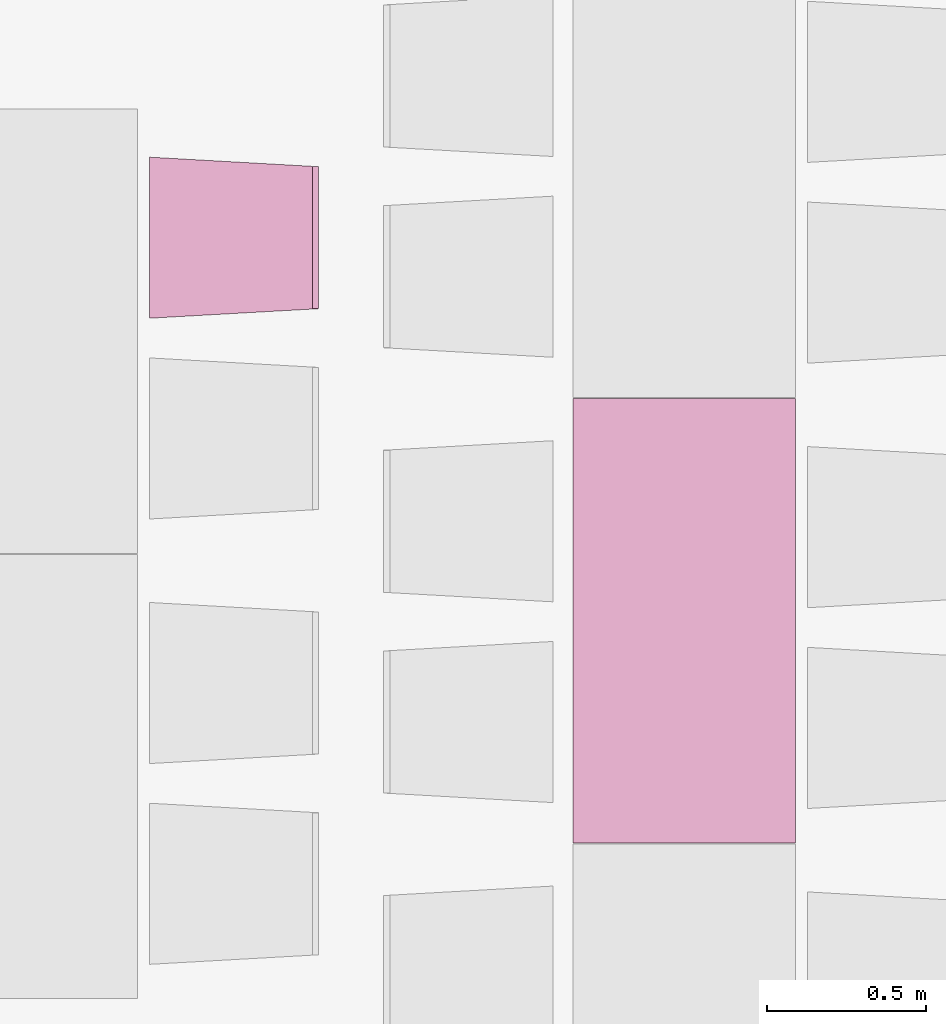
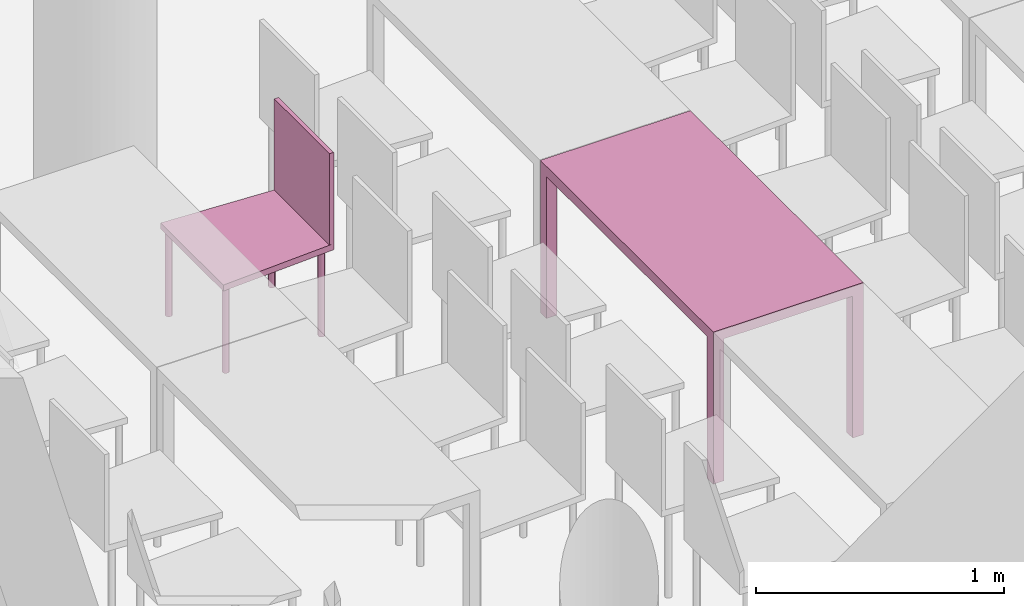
"""IFC4 building model written with IfcOpenShell, lengths in metres."""

from ifc_helpers import new_model, entity, si_unit, converted_unit, derived_unit, frame, origin, place, context, subcontext, project, spatial, faceted_brep, element, save


model = new_model("IFC4")

# Units and contexts
model_context = context("Model", 3, precision=1e-05, world=origin())
body_context = subcontext(model_context, "Body", "Model", "MODEL_VIEW")
ifc_project = project(units=[si_unit("LENGTHUNIT", "METRE"), si_unit("AREAUNIT", "SQUARE_METRE"), si_unit("VOLUMEUNIT", "CUBIC_METRE"), si_unit("MASSUNIT", "GRAM", prefix="KILO"), converted_unit("PLANEANGLEUNIT", "DEGREE", entity("IfcPlaneAngleMeasure", 0.0174532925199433), si_unit("PLANEANGLEUNIT", "RADIAN"), dimensions=[0, 0, 0, 0, 0, 0, 0]), derived_unit("THERMALTRANSMITTANCEUNIT", [(si_unit("POWERUNIT", "WATT"), 1), (si_unit("THERMODYNAMICTEMPERATUREUNIT", "KELVIN"), -1), (si_unit("LENGTHUNIT", "METRE"), -2)]), derived_unit("VOLUMETRICFLOWRATEUNIT", [(si_unit("LENGTHUNIT", "METRE"), 3), (converted_unit("TIMEUNIT", "hour", entity("IfcTimeMeasure", 3600.0), si_unit("TIMEUNIT", "SECOND"), dimensions=[0, 0, 1, 0, 0, 0, 0]), -1), (si_unit("LENGTHUNIT", "METRE"), -1)])], contexts=[model_context])

# Building, storeys
building_placement = place(None, origin())
building = spatial("IfcBuilding", under=ifc_project, at=building_placement, Name="HABITATGE PLURIFAMILIAR", CompositionType="ELEMENT")
storey_1_placement = place(building_placement, frame((0.0, 0.0, 3.35)))
storey_1 = spatial("IfcBuildingStorey", under=building, at=storey_1_placement, Name="PLANTA  ALTELL", CompositionType="ELEMENT", Elevation=3.35)
storey_2_placement = place(storey_1_placement, origin())
storey_2 = spatial("IfcBuildingStorey", under=storey_1, at=storey_2_placement, Name="NOU", CompositionType="PARTIAL")

# Furniture
furniture_1_placement = place(storey_2_placement, frame((402.051918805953, 14.6526455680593, 0.05)))
element("IfcFurniture", 1, at=furniture_1_placement, inside=storey_2, Name="Taula 140X80_PA", context=body_context, shape_type="Brep", body=[
    faceted_brep([(0.7, 0.0500000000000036, 0.0), (0.65, 0.0500000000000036, 0.0), (0.65, 0.0, 0.0), (0.7, 0.0, 0.0), (0.65, 0.0500000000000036, 0.7), (0.7, 0.0500000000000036, 0.7), (0.7, 0.0, 0.7), (0.65, 0.0, 0.7)], [[[0, 1, 2, 3]], [[4, 5, 6, 7]], [[1, 0, 5, 4]], [[2, 1, 4, 7]], [[3, 2, 7, 6]], [[0, 3, 6, 5]]], orient=[[False], [False], [False], [False], [False], [False]]),
    faceted_brep([(0.7, 1.39694592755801, 0.0), (0.65, 1.39694592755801, 0.0), (0.65, 1.34694592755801, 0.0), (0.7, 1.34694592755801, 0.0), (0.65, 1.39694592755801, 0.7), (0.7, 1.39694592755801, 0.7), (0.7, 1.34694592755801, 0.7), (0.65, 1.34694592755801, 0.7)], [[[0, 1, 2, 3]], [[4, 5, 6, 7]], [[1, 0, 5, 4]], [[2, 1, 4, 7]], [[3, 2, 7, 6]], [[0, 3, 6, 5]]], orient=[[False], [False], [False], [False], [False], [False]]),
    faceted_brep([(0.7, 1.396945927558, 0.7), (0.0, 1.396945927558, 0.7), (0.0, 0.0, 0.7), (0.7, 0.0, 0.7), (0.0, 1.396945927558, 0.75), (0.7, 1.396945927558, 0.75), (0.7, 0.0, 0.75), (0.0, 0.0, 0.75)], [[[0, 1, 2, 3]], [[4, 5, 6, 7]], [[1, 0, 5, 4]], [[2, 1, 4, 7]], [[3, 2, 7, 6]], [[0, 3, 6, 5]]], orient=[[False], [False], [False], [False], [False], [False]]),
    faceted_brep([(0.05, 0.05, 0.0), (0.0, 0.05, 0.0), (0.0, 0.0, 0.0), (0.05, 0.0, 0.0), (0.0, 0.05, 0.7), (0.05, 0.05, 0.7), (0.05, 0.0, 0.7), (0.0, 0.0, 0.7)], [[[0, 1, 2, 3]], [[4, 5, 6, 7]], [[1, 0, 5, 4]], [[2, 1, 4, 7]], [[3, 2, 7, 6]], [[0, 3, 6, 5]]], orient=[[False], [False], [False], [False], [False], [False]]),
    faceted_brep([(0.05, 1.396945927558, 0.0), (0.0, 1.396945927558, 0.0), (0.0, 1.346945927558, 0.0), (0.05, 1.346945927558, 0.0), (0.0, 1.396945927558, 0.7), (0.05, 1.396945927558, 0.7), (0.05, 1.346945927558, 0.7), (0.0, 1.346945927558, 0.7)], [[[0, 1, 2, 3]], [[4, 5, 6, 7]], [[1, 0, 5, 4]], [[2, 1, 4, 7]], [[3, 2, 7, 6]], [[0, 3, 6, 5]]], orient=[[False], [False], [False], [False], [False], [False]]),
])
furniture_2_placement = place(storey_2_placement, frame((400.719669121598, 16.3018682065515, 0.0499839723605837)))
element("IfcFurniture", 2, at=furniture_2_placement, inside=storey_2, Name="Cadira confident_PA", context=body_context, shape_type="Brep", body=[
    faceted_brep([(0.0250324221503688, 0.0391636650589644, 0.0), (0.0224394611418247, 0.0389254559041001, 0.0), (0.0199272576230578, 0.038240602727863, 0.0), (0.0175721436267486, 0.0371299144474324, 0.0), (0.0154456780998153, 0.0356271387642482, 0.0), (0.0136124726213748, 0.0337779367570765, 0.0), (0.0121282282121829, 0.0316384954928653, 0.0), (0.0110380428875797, 0.0292738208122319, 0.0), (0.010375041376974, 0.0267557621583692, 0.0), (0.0101593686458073, 0.0241608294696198, 0.0), (0.010397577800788, 0.0215678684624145, 0.0), (0.0110824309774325, 0.0190556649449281, 0.0), (0.0121931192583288, 0.0167005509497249, 0.0), (0.0136958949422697, 0.0145740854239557, 0.0), (0.0155450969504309, 0.0127408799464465, 0.0), (0.0176845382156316, 0.0112566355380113, 0.0), (0.0200492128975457, 0.010166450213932, 0.0), (0.0225672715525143, 0.00950344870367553, 0.0), (0.0251622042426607, 0.00928777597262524, 0.0), (0.0277551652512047, 0.00952598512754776, 0.0), (0.0302673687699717, 0.0102108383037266, 0.0), (0.0326224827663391, 0.0113215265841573, 0.0), (0.0347489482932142, 0.0128243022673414, 0.0), (0.0365821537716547, 0.0146735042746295, 0.0), (0.0380663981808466, 0.0168129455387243, 0.0), (0.0391565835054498, 0.019177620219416, 0.0), (0.0398195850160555, 0.0216956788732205, 0.0), (0.0400352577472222, 0.0242906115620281, 0.0), (0.0397970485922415, 0.0268835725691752, 0.0), (0.0391121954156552, 0.0293957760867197, 0.0), (0.0380015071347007, 0.0317508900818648, 0.0), (0.0364987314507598, 0.0338773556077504, 0.0), (0.0346495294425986, 0.0357105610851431, 0.0), (0.0325100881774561, 0.0371948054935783, 0.0), (0.030145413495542, 0.0382849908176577, 0.0), (0.0276273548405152, 0.0389479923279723, 0.0), (0.0250324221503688, 0.0391636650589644, 0.448281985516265), (0.0276273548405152, 0.0389479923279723, 0.448281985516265), (0.030145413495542, 0.0382849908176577, 0.448281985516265), (0.0325100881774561, 0.0371948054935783, 0.448281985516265), (0.0346495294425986, 0.0357105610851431, 0.448281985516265), (0.0364987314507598, 0.0338773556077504, 0.448281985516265), (0.0380015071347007, 0.0317508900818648, 0.448281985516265), (0.0391121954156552, 0.0293957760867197, 0.448281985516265), (0.0397970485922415, 0.0268835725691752, 0.448281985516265), (0.0400352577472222, 0.0242906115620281, 0.448281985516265), (0.0398195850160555, 0.0216956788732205, 0.448281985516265), (0.0391565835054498, 0.019177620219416, 0.448281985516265), (0.0380663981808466, 0.0168129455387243, 0.448281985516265), (0.0365821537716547, 0.0146735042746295, 0.448281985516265), (0.0347489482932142, 0.0128243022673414, 0.448281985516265), (0.0326224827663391, 0.0113215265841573, 0.448281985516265), (0.0302673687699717, 0.0102108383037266, 0.448281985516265), (0.0277551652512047, 0.00952598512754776, 0.448281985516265), (0.0251622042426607, 0.00928777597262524, 0.448281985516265), (0.0225672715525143, 0.00950344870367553, 0.448281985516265), (0.0200492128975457, 0.010166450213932, 0.448281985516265), (0.0176845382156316, 0.0112566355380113, 0.448281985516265), (0.0155450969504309, 0.0127408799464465, 0.448281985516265), (0.0136958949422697, 0.0145740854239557, 0.448281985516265), (0.0121931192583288, 0.0167005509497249, 0.448281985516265), (0.0110824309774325, 0.0190556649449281, 0.448281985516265), (0.010397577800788, 0.0215678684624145, 0.448281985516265), (0.0101593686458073, 0.0241608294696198, 0.448281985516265), (0.010375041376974, 0.0267557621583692, 0.448281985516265), (0.0110380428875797, 0.0292738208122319, 0.448281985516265), (0.0121282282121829, 0.0316384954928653, 0.448281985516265), (0.0136124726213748, 0.0337779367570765, 0.448281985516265), (0.0154456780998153, 0.0356271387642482, 0.448281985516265), (0.0175721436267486, 0.0371299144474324, 0.448281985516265), (0.0199272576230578, 0.038240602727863, 0.448281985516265), (0.0224394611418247, 0.0389254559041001, 0.448281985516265)], [[[0, 1, 2, 3, 4, 5, 6, 7, 8, 9, 10, 11, 12, 13, 14, 15, 16, 17, 18, 19, 20, 21, 22, 23, 24, 25, 26, 27, 28, 29, 30, 31, 32, 33, 34, 35]], [[36, 37, 38, 39, 40, 41, 42, 43, 44, 45, 46, 47, 48, 49, 50, 51, 52, 53, 54, 55, 56, 57, 58, 59, 60, 61, 62, 63, 64, 65, 66, 67, 68, 69, 70, 71]], [[35, 37, 36, 0]], [[34, 38, 37, 35]], [[33, 39, 38, 34]], [[32, 40, 39, 33]], [[31, 41, 40, 32]], [[30, 42, 41, 31]], [[29, 43, 42, 30]], [[28, 44, 43, 29]], [[27, 45, 44, 28]], [[26, 46, 45, 27]], [[25, 47, 46, 26]], [[24, 48, 47, 25]], [[23, 49, 48, 24]], [[22, 50, 49, 23]], [[21, 51, 50, 22]], [[20, 52, 51, 21]], [[19, 53, 52, 20]], [[18, 54, 53, 19]], [[17, 55, 54, 18]], [[16, 56, 55, 17]], [[15, 57, 56, 16]], [[14, 58, 57, 15]], [[13, 59, 58, 14]], [[12, 60, 59, 13]], [[11, 61, 60, 12]], [[10, 62, 61, 11]], [[9, 63, 62, 10]], [[8, 64, 63, 9]], [[7, 65, 64, 8]], [[6, 66, 65, 7]], [[5, 67, 66, 6]], [[4, 68, 67, 5]], [[3, 69, 68, 4]], [[2, 70, 69, 3]], [[1, 71, 70, 2]], [[0, 36, 71, 1]]], orient=[[False], [False], [False], [False], [False], [False], [False], [False], [False], [False], [False], [False], [False], [False], [False], [False], [False], [False], [False], [False], [False], [False], [False], [False], [False], [False], [False], [False], [False], [False], [False], [False], [False], [False], [False], [False], [False], [False]]),
    faceted_brep([(0.487439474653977, 0.0668016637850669, 0.0), (0.484846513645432, 0.0665634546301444, 0.0), (0.482334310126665, 0.0658786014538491, 0.0), (0.479979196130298, 0.0647679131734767, 0.0), (0.477852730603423, 0.0632651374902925, 0.0), (0.476019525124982, 0.0614159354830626, 0.0), (0.474535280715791, 0.0592764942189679, 0.0), (0.473445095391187, 0.056911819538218, 0.0), (0.472782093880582, 0.0543937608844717, 0.0), (0.472566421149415, 0.0517988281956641, 0.0), (0.472804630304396, 0.0492058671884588, 0.0), (0.473489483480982, 0.0466936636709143, 0.0), (0.474600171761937, 0.0443385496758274, 0.0), (0.476102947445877, 0.0422120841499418, 0.0), (0.477952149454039, 0.0403788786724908, 0.0), (0.480091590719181, 0.0388946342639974, 0.0), (0.482456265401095, 0.0378044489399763, 0.0), (0.484974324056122, 0.0371414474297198, 0.0), (0.487569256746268, 0.0369257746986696, 0.0), (0.490162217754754, 0.0371639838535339, 0.0), (0.492674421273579, 0.0378488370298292, 0.0), (0.495029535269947, 0.0389595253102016, 0.0), (0.497156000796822, 0.0404623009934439, 0.0), (0.498989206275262, 0.0423115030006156, 0.0), (0.500473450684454, 0.0444509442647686, 0.0), (0.501563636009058, 0.0468156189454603, 0.0), (0.502226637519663, 0.0493336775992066, 0.0), (0.50244231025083, 0.0519286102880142, 0.0), (0.502204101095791, 0.0545215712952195, 0.0), (0.501519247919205, 0.057033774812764, 0.0), (0.500408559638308, 0.0593888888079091, 0.0), (0.498905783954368, 0.0615153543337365, 0.0), (0.497056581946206, 0.0633485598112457, 0.0), (0.494917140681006, 0.0648328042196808, 0.0), (0.492552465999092, 0.065922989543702, 0.0), (0.490034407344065, 0.0665859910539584, 0.0), (0.487439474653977, 0.0668016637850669, 0.448281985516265), (0.490034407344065, 0.0665859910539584, 0.448281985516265), (0.492552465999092, 0.065922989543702, 0.448281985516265), (0.494917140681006, 0.0648328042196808, 0.448281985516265), (0.497056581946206, 0.0633485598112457, 0.448281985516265), (0.498905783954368, 0.0615153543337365, 0.448281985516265), (0.500408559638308, 0.0593888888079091, 0.448281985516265), (0.501519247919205, 0.057033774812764, 0.448281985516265), (0.502204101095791, 0.0545215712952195, 0.448281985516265), (0.50244231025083, 0.0519286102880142, 0.448281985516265), (0.502226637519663, 0.0493336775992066, 0.448281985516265), (0.501563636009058, 0.0468156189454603, 0.448281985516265), (0.500473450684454, 0.0444509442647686, 0.448281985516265), (0.498989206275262, 0.0423115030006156, 0.448281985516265), (0.497156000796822, 0.0404623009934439, 0.448281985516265), (0.495029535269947, 0.0389595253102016, 0.448281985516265), (0.492674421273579, 0.0378488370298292, 0.448281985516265), (0.490162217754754, 0.0371639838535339, 0.448281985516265), (0.487569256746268, 0.0369257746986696, 0.448281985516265), (0.484974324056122, 0.0371414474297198, 0.448281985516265), (0.482456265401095, 0.0378044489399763, 0.448281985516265), (0.480091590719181, 0.0388946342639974, 0.448281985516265), (0.477952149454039, 0.0403788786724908, 0.448281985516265), (0.476102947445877, 0.0422120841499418, 0.448281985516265), (0.474600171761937, 0.0443385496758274, 0.448281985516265), (0.473489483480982, 0.0466936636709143, 0.448281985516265), (0.472804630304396, 0.0492058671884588, 0.448281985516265), (0.472566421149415, 0.0517988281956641, 0.448281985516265), (0.472782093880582, 0.0543937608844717, 0.448281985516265), (0.473445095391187, 0.056911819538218, 0.448281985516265), (0.474535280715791, 0.0592764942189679, 0.448281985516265), (0.476019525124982, 0.0614159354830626, 0.448281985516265), (0.477852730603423, 0.0632651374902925, 0.448281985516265), (0.479979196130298, 0.0647679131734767, 0.448281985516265), (0.482334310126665, 0.0658786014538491, 0.448281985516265), (0.484846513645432, 0.0665634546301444, 0.448281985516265)], [[[0, 1, 2, 3, 4, 5, 6, 7, 8, 9, 10, 11, 12, 13, 14, 15, 16, 17, 18, 19, 20, 21, 22, 23, 24, 25, 26, 27, 28, 29, 30, 31, 32, 33, 34, 35]], [[36, 37, 38, 39, 40, 41, 42, 43, 44, 45, 46, 47, 48, 49, 50, 51, 52, 53, 54, 55, 56, 57, 58, 59, 60, 61, 62, 63, 64, 65, 66, 67, 68, 69, 70, 71]], [[35, 37, 36, 0]], [[34, 38, 37, 35]], [[33, 39, 38, 34]], [[32, 40, 39, 33]], [[31, 41, 40, 32]], [[30, 42, 41, 31]], [[29, 43, 42, 30]], [[28, 44, 43, 29]], [[27, 45, 44, 28]], [[26, 46, 45, 27]], [[25, 47, 46, 26]], [[24, 48, 47, 25]], [[23, 49, 48, 24]], [[22, 50, 49, 23]], [[21, 51, 50, 22]], [[20, 52, 51, 21]], [[19, 53, 52, 20]], [[18, 54, 53, 19]], [[17, 55, 54, 18]], [[16, 56, 55, 17]], [[15, 57, 56, 16]], [[14, 58, 57, 15]], [[13, 59, 58, 14]], [[12, 60, 59, 13]], [[11, 61, 60, 12]], [[10, 62, 61, 11]], [[9, 63, 62, 10]], [[8, 64, 63, 9]], [[7, 65, 64, 8]], [[6, 66, 65, 7]], [[5, 67, 66, 6]], [[4, 68, 67, 5]], [[3, 69, 68, 4]], [[2, 70, 69, 3]], [[1, 71, 70, 2]], [[0, 36, 71, 1]]], orient=[[False], [False], [False], [False], [False], [False], [False], [False], [False], [False], [False], [False], [False], [False], [False], [False], [False], [False], [False], [False], [False], [False], [False], [False], [False], [False], [False], [False], [False], [False], [False], [False], [False], [False], [False], [False], [False], [False]]),
    faceted_brep([(0.0250324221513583, 0.499163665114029, 0.0), (0.0224394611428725, 0.498925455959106, 0.0), (0.0199272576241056, 0.498240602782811, 0.0), (0.0175721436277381, 0.497129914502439, 0.0), (0.0154456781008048, 0.495627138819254, 0.0), (0.0136124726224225, 0.493777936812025, 0.0), (0.0121282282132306, 0.491638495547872, 0.0), (0.0110380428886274, 0.489273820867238, 0.0), (0.0103750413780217, 0.486755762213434, 0.0), (0.0101593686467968, 0.484160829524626, 0.0), (0.0103975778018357, 0.481567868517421, 0.0), (0.0110824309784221, 0.479055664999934, 0.0), (0.0121931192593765, 0.476700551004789, 0.0), (0.0136958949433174, 0.474574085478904, 0.0), (0.0155450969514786, 0.472740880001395, 0.0), (0.0176845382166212, 0.471256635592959, 0.0), (0.0200492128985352, 0.470166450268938, 0.0), (0.022567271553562, 0.469503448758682, 0.0), (0.0251622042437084, 0.469287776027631, 0.0), (0.0277551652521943, 0.469525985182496, 0.0), (0.0302673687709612, 0.470210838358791, 0.0), (0.0326224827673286, 0.471321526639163, 0.0), (0.0347489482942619, 0.472824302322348, 0.0), (0.0365821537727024, 0.474673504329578, 0.0), (0.0380663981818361, 0.476812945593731, 0.0), (0.0391565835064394, 0.479177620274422, 0.0), (0.039819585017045, 0.481695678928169, 0.0), (0.0400352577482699, 0.484290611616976, 0.0), (0.039797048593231, 0.486883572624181, 0.0), (0.0391121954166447, 0.489395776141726, 0.0), (0.0380015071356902, 0.491750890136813, 0.0), (0.0364987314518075, 0.493877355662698, 0.0), (0.0346495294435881, 0.495710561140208, 0.0), (0.0325100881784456, 0.497194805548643, 0.0), (0.0301454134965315, 0.498284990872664, 0.0), (0.0276273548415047, 0.49894799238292, 0.0), (0.0250324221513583, 0.499163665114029, 0.448281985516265), (0.0276273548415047, 0.49894799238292, 0.448281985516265), (0.0301454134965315, 0.498284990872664, 0.448281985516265), (0.0325100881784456, 0.497194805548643, 0.448281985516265), (0.0346495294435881, 0.495710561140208, 0.448281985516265), (0.0364987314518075, 0.493877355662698, 0.448281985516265), (0.0380015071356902, 0.491750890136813, 0.448281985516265), (0.0391121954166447, 0.489395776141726, 0.448281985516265), (0.039797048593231, 0.486883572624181, 0.448281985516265), (0.0400352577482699, 0.484290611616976, 0.448281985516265), (0.039819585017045, 0.481695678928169, 0.448281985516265), (0.0391565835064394, 0.479177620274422, 0.448281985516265), (0.0380663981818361, 0.476812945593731, 0.448281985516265), (0.0365821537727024, 0.474673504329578, 0.448281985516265), (0.0347489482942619, 0.472824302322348, 0.448281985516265), (0.0326224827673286, 0.471321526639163, 0.448281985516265), (0.0302673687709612, 0.470210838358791, 0.448281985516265), (0.0277551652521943, 0.469525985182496, 0.448281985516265), (0.0251622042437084, 0.469287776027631, 0.448281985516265), (0.022567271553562, 0.469503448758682, 0.448281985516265), (0.0200492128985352, 0.470166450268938, 0.448281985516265), (0.0176845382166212, 0.471256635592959, 0.448281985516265), (0.0155450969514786, 0.472740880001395, 0.448281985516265), (0.0136958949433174, 0.474574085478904, 0.448281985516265), (0.0121931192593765, 0.476700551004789, 0.448281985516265), (0.0110824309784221, 0.479055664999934, 0.448281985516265), (0.0103975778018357, 0.481567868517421, 0.448281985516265), (0.0101593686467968, 0.484160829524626, 0.448281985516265), (0.0103750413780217, 0.486755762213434, 0.448281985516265), (0.0110380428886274, 0.489273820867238, 0.448281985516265), (0.0121282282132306, 0.491638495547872, 0.448281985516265), (0.0136124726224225, 0.493777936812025, 0.448281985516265), (0.0154456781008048, 0.495627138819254, 0.448281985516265), (0.0175721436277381, 0.497129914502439, 0.448281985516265), (0.0199272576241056, 0.498240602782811, 0.448281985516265), (0.0224394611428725, 0.498925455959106, 0.448281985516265)], [[[0, 1, 2, 3, 4, 5, 6, 7, 8, 9, 10, 11, 12, 13, 14, 15, 16, 17, 18, 19, 20, 21, 22, 23, 24, 25, 26, 27, 28, 29, 30, 31, 32, 33, 34, 35]], [[36, 37, 38, 39, 40, 41, 42, 43, 44, 45, 46, 47, 48, 49, 50, 51, 52, 53, 54, 55, 56, 57, 58, 59, 60, 61, 62, 63, 64, 65, 66, 67, 68, 69, 70, 71]], [[35, 37, 36, 0]], [[34, 38, 37, 35]], [[33, 39, 38, 34]], [[32, 40, 39, 33]], [[31, 41, 40, 32]], [[30, 42, 41, 31]], [[29, 43, 42, 30]], [[28, 44, 43, 29]], [[27, 45, 44, 28]], [[26, 46, 45, 27]], [[25, 47, 46, 26]], [[24, 48, 47, 25]], [[23, 49, 48, 24]], [[22, 50, 49, 23]], [[21, 51, 50, 22]], [[20, 52, 51, 21]], [[19, 53, 52, 20]], [[18, 54, 53, 19]], [[17, 55, 54, 18]], [[16, 56, 55, 17]], [[15, 57, 56, 16]], [[14, 58, 57, 15]], [[13, 59, 58, 14]], [[12, 60, 59, 13]], [[11, 61, 60, 12]], [[10, 62, 61, 11]], [[9, 63, 62, 10]], [[8, 64, 63, 9]], [[7, 65, 64, 8]], [[6, 66, 65, 7]], [[5, 67, 66, 6]], [[4, 68, 67, 5]], [[3, 69, 68, 4]], [[2, 70, 69, 3]], [[1, 71, 70, 2]], [[0, 36, 71, 1]]], orient=[[False], [False], [False], [False], [False], [False], [False], [False], [False], [False], [False], [False], [False], [False], [False], [False], [False], [False], [False], [False], [False], [False], [False], [False], [False], [False], [False], [False], [False], [False], [False], [False], [False], [False], [False], [False], [False], [False]]),
    faceted_brep([(0.48743947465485, 0.466801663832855, 0.0), (0.484846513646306, 0.466563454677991, 0.0), (0.482334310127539, 0.465878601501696, 0.0), (0.479979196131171, 0.464767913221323, 0.0), (0.477852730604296, 0.463265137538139, 0.0), (0.476019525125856, 0.461415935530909, 0.0), (0.474535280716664, 0.459276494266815, 0.0), (0.47344509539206, 0.456911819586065, 0.0), (0.472782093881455, 0.454393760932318, 0.0), (0.472566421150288, 0.451798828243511, 0.0), (0.472804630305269, 0.449205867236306, 0.0), (0.473489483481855, 0.446693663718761, 0.0), (0.47460017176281, 0.444338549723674, 0.0), (0.47610294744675, 0.442212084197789, 0.0), (0.477952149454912, 0.440378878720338, 0.0), (0.480091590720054, 0.438894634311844, 0.0), (0.482456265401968, 0.437804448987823, 0.0), (0.484974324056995, 0.437141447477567, 0.0), (0.487569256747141, 0.436925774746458, 0.0), (0.490162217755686, 0.437163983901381, 0.0), (0.492674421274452, 0.437848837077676, 0.0), (0.495029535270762, 0.438959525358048, 0.0), (0.497156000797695, 0.440462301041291, 0.0), (0.498989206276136, 0.442311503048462, 0.0), (0.500473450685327, 0.444450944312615, 0.0), (0.501563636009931, 0.446815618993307, 0.0), (0.502226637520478, 0.449333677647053, 0.0), (0.502442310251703, 0.451928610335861, 0.0), (0.502204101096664, 0.454521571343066, 0.0), (0.501519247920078, 0.457033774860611, 0.0), (0.500408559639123, 0.459388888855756, 0.0), (0.498905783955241, 0.461515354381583, 0.0), (0.497056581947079, 0.463348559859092, 0.0), (0.494917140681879, 0.464832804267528, 0.0), (0.492552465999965, 0.465922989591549, 0.0), (0.490034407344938, 0.466585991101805, 0.0), (0.48743947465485, 0.466801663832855, 0.448281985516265), (0.490034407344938, 0.466585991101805, 0.448281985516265), (0.492552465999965, 0.465922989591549, 0.448281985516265), (0.494917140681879, 0.464832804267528, 0.448281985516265), (0.497056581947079, 0.463348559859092, 0.448281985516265), (0.498905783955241, 0.461515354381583, 0.448281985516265), (0.500408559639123, 0.459388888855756, 0.448281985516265), (0.501519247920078, 0.457033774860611, 0.448281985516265), (0.502204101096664, 0.454521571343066, 0.448281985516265), (0.502442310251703, 0.451928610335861, 0.448281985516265), (0.502226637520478, 0.449333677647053, 0.448281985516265), (0.501563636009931, 0.446815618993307, 0.448281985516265), (0.500473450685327, 0.444450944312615, 0.448281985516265), (0.498989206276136, 0.442311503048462, 0.448281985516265), (0.497156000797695, 0.440462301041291, 0.448281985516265), (0.495029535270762, 0.438959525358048, 0.448281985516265), (0.492674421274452, 0.437848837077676, 0.448281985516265), (0.490162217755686, 0.437163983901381, 0.448281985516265), (0.487569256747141, 0.436925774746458, 0.448281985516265), (0.484974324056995, 0.437141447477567, 0.448281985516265), (0.482456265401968, 0.437804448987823, 0.448281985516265), (0.480091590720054, 0.438894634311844, 0.448281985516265), (0.477952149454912, 0.440378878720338, 0.448281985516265), (0.47610294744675, 0.442212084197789, 0.448281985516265), (0.47460017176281, 0.444338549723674, 0.448281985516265), (0.473489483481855, 0.446693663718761, 0.448281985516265), (0.472804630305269, 0.449205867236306, 0.448281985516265), (0.472566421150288, 0.451798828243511, 0.448281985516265), (0.472782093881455, 0.454393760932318, 0.448281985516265), (0.47344509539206, 0.456911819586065, 0.448281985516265), (0.474535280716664, 0.459276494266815, 0.448281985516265), (0.476019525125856, 0.461415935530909, 0.448281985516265), (0.477852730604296, 0.463265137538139, 0.448281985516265), (0.479979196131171, 0.464767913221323, 0.448281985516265), (0.482334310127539, 0.465878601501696, 0.448281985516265), (0.484846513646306, 0.466563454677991, 0.448281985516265)], [[[0, 1, 2, 3, 4, 5, 6, 7, 8, 9, 10, 11, 12, 13, 14, 15, 16, 17, 18, 19, 20, 21, 22, 23, 24, 25, 26, 27, 28, 29, 30, 31, 32, 33, 34, 35]], [[36, 37, 38, 39, 40, 41, 42, 43, 44, 45, 46, 47, 48, 49, 50, 51, 52, 53, 54, 55, 56, 57, 58, 59, 60, 61, 62, 63, 64, 65, 66, 67, 68, 69, 70, 71]], [[35, 37, 36, 0]], [[34, 38, 37, 35]], [[33, 39, 38, 34]], [[32, 40, 39, 33]], [[31, 41, 40, 32]], [[30, 42, 41, 31]], [[29, 43, 42, 30]], [[28, 44, 43, 29]], [[27, 45, 44, 28]], [[26, 46, 45, 27]], [[25, 47, 46, 26]], [[24, 48, 47, 25]], [[23, 49, 48, 24]], [[22, 50, 49, 23]], [[21, 51, 50, 22]], [[20, 52, 51, 21]], [[19, 53, 52, 20]], [[18, 54, 53, 19]], [[17, 55, 54, 18]], [[16, 56, 55, 17]], [[15, 57, 56, 16]], [[14, 58, 57, 15]], [[13, 59, 58, 14]], [[12, 60, 59, 13]], [[11, 61, 60, 12]], [[10, 62, 61, 11]], [[9, 63, 62, 10]], [[8, 64, 63, 9]], [[7, 65, 64, 8]], [[6, 66, 65, 7]], [[5, 67, 66, 6]], [[4, 68, 67, 5]], [[3, 69, 68, 4]], [[2, 70, 69, 3]], [[1, 71, 70, 2]], [[0, 36, 71, 1]]], orient=[[False], [False], [False], [False], [False], [False], [False], [False], [False], [False], [False], [False], [False], [False], [False], [False], [False], [False], [False], [False], [False], [False], [False], [False], [False], [False], [False], [False], [False], [False], [False], [False], [False], [False], [False], [False], [False], [False]]),
    faceted_brep([(0.532607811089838, 0.476514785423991, 0.418281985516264), (0.0, 0.506514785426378, 0.418281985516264), (0.0, 0.0, 0.418281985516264), (0.532607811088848, 0.0300000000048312, 0.418281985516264), (0.0, 0.506514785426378, 0.448281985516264), (0.532607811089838, 0.476514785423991, 0.448281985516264), (0.532607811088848, 0.0300000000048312, 0.448281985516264), (0.0, 0.0, 0.448281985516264)], [[[0, 1, 2, 3]], [[4, 5, 6, 7]], [[1, 0, 5, 4]], [[2, 1, 4, 7]], [[3, 2, 7, 6]], [[0, 3, 6, 5]]], orient=[[False], [False], [False], [False], [False], [False]]),
    faceted_brep([(0.512607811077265, 0.476514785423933, 0.448281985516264), (0.512607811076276, 0.0300000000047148, 0.448281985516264), (0.53260781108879, 0.0300000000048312, 0.448281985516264), (0.53260781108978, 0.476514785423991, 0.448281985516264), (0.512607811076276, 0.0300000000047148, 0.898281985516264), (0.512607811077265, 0.476514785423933, 0.898281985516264), (0.53260781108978, 0.476514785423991, 0.898281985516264), (0.53260781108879, 0.0300000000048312, 0.898281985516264)], [[[0, 1, 2, 3]], [[4, 5, 6, 7]], [[1, 0, 5, 4]], [[2, 1, 4, 7]], [[3, 2, 7, 6]], [[0, 3, 6, 5]]], orient=[[False], [False], [False], [False], [False], [False]]),
])

save(model, "model.ifc")
